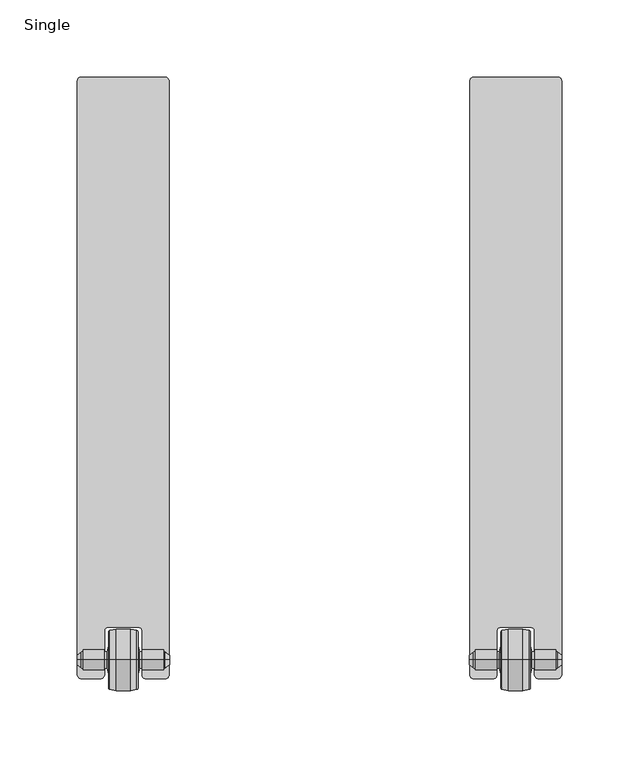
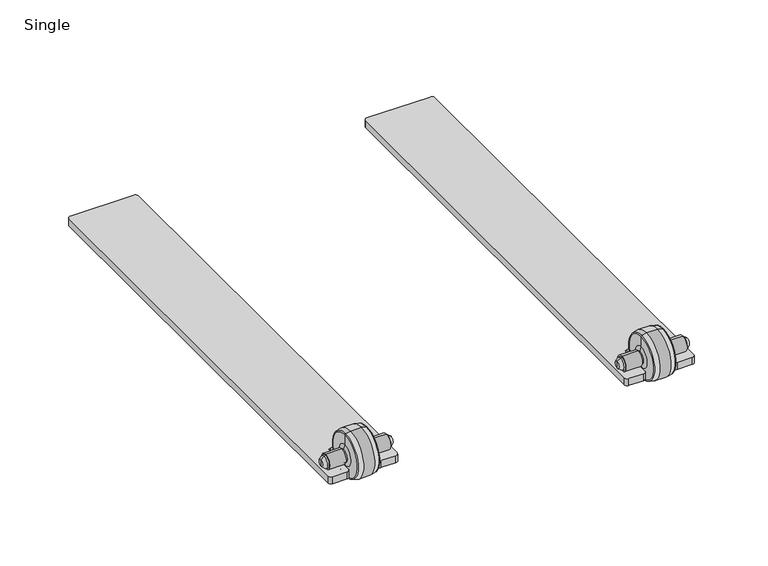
"""IFC4 building model written with IfcOpenShell, lengths in millimetres: furniture geometry, SmithSystem_AM_Seating_Education_Flowform_LearnLounge_MobileKit_Single : Single."""

from ifc_helpers import new_model, si_unit, point, frame, frame_2d, origin, place, context, project, spatial, polyline, circle_curve, ellipse_curve, trimmed, segment, composite_curve, outline, extrude, source, transform, mapped, element, save
from ifc_brep_helpers import plane_surface, cylinder_surface, revolved_surface, advanced_brep


def single_8f184688(model_context):
    return source(origin(), model_context, "Body", "SolidModel", [
        advanced_brep(
        [(-97.2897845, -203.2631744, 19.404882), (-97.2897845, -203.2631744, 22.510052), (-97.2897845, -203.2631744, 25.6152221), (-100.0247812, -203.2631744, 17.3341849), (-100.0247812, -203.2631744, 27.6859191), (-101.2986618, -203.2631744, 17.0165708), (-101.2986618, -203.2631744, 28.0035332), (-101.2986618, -203.2631744, 16.0005885), (-101.2986618, -203.2631744, 29.0195155), (-114.9542691, -203.2631744, 16.0005885), (-114.9542691, -203.2631744, 29.0195155), (-114.9542691, -203.2631744, 17.0204517), (-114.9542691, -203.2631744, 27.9996523), (-116.787195, -203.2631744, 17.0204517), (-116.787195, -203.2631744, 27.9996523), (-117.8042435, -203.2631744, 13.367798), (-117.8042435, -203.2631744, 31.652306), (-117.8042435, -203.2631744, 4.1761693), (-117.8042435, -203.2631744, 40.8439347), (-118.510082, -203.2631744, 3.2868443), (-118.510082, -203.2631744, 41.7332597), (-122.5542927, -203.2631744, 2.3439843), (-122.5542927, -203.2631744, 42.6761197), (-132.0543427, -203.2631744, 2.3439843), (-132.0543427, -203.2631744, 42.6761197), (-136.0985534, -203.2631744, 3.2868443), (-136.0985534, -203.2631744, 41.7332597), (-136.8043919, -203.2631744, 4.1761693), (-136.8043919, -203.2631744, 40.8439347), (-136.8043919, -203.2631744, 13.367798), (-136.8043919, -203.2631744, 31.652306), (-137.8214403, -203.2631744, 17.0204517), (-137.8214403, -203.2631744, 27.9996523), (-139.6543663, -203.2631744, 17.0204517), (-139.6543663, -203.2631744, 27.9996523), (-139.6543663, -203.2631744, 16.0005885), (-139.6543663, -203.2631744, 29.0195155), (-153.3099735, -203.2631744, 16.0005885), (-153.3099735, -203.2631744, 29.0195155), (-153.3099735, -203.2631744, 17.0165708), (-153.3099735, -203.2631744, 28.0035332), (-154.5838541, -203.2631744, 17.3341849), (-154.5838541, -203.2631744, 27.6859191), (-157.3188509, -203.2631744, 19.404882), (-157.3188509, -203.2631744, 25.6152221), (-157.3188509, -203.2631744, 22.510052)],
        [
            (0, 1),
            (1, 2),
            (2, 0, circle_curve(frame((-97.2897845, -203.2631744, 22.510052), z_axis=(1.0, 0.0, 0.0), x_axis=(0.0, 0.0, 1.0)), 3.1051701)),
            (0, 2, circle_curve(frame((-97.2897845, -203.2631744, 22.510052), z_axis=(1.0, 0.0, 0.0), x_axis=(0.0, 0.0, 1.0)), 3.1051701)),
            (3, 0),
            (2, 4),
            (4, 3, circle_curve(frame((-100.0247812, -203.2631744, 22.510052), z_axis=(1.0, 0.0, 0.0), x_axis=(0.0, 0.0, 1.0)), 5.1758671)),
            (3, 4, circle_curve(frame((-100.0247812, -203.2631744, 22.510052), z_axis=(1.0, 0.0, 0.0), x_axis=(0.0, 0.0, 1.0)), 5.1758671)),
            (5, 3),
            (4, 6),
            (6, 5, circle_curve(frame((-101.2986618, -203.2631744, 22.510052), z_axis=(1.0, 0.0, 0.0), x_axis=(0.0, 0.0, 1.0)), 5.4934812)),
            (5, 6, circle_curve(frame((-101.2986618, -203.2631744, 22.510052), z_axis=(1.0, 0.0, 0.0), x_axis=(0.0, 0.0, 1.0)), 5.4934812)),
            (7, 5),
            (6, 8),
            (8, 7, circle_curve(frame((-101.2986618, -203.2631744, 22.510052), z_axis=(1.0, 0.0, 0.0), x_axis=(0.0, 0.0, 1.0)), 6.5094635)),
            (7, 8, circle_curve(frame((-101.2986618, -203.2631744, 22.510052), z_axis=(1.0, 0.0, 0.0), x_axis=(0.0, 0.0, 1.0)), 6.5094635)),
            (9, 7),
            (8, 10),
            (10, 9, circle_curve(frame((-114.9542691, -203.2631744, 22.510052), z_axis=(1.0, 0.0, 0.0), x_axis=(0.0, 0.0, 1.0)), 6.5094635)),
            (9, 10, circle_curve(frame((-114.9542691, -203.2631744, 22.510052), z_axis=(1.0, 0.0, 0.0), x_axis=(0.0, 0.0, 1.0)), 6.5094635)),
            (11, 9),
            (10, 12),
            (12, 11, circle_curve(frame((-114.9542691, -203.2631744, 22.510052), z_axis=(1.0, 0.0, 0.0), x_axis=(0.0, 0.0, 1.0)), 5.4896003)),
            (11, 12, circle_curve(frame((-114.9542691, -203.2631744, 22.510052), z_axis=(1.0, 0.0, 0.0), x_axis=(0.0, 0.0, 1.0)), 5.4896003)),
            (13, 11),
            (12, 14),
            (14, 13, circle_curve(frame((-116.787195, -203.2631744, 22.510052), z_axis=(1.0, 0.0, 0.0), x_axis=(0.0, 0.0, 1.0)), 5.4896003)),
            (13, 14, circle_curve(frame((-116.787195, -203.2631744, 22.510052), z_axis=(1.0, 0.0, 0.0), x_axis=(0.0, 0.0, 1.0)), 5.4896003)),
            (15, 13),
            (14, 16),
            (16, 15, circle_curve(frame((-117.8042435, -203.2631744, 22.510052), z_axis=(1.0, 0.0, 0.0), x_axis=(0.0, 0.0, 1.0)), 9.142254)),
            (15, 16, circle_curve(frame((-117.8042435, -203.2631744, 22.510052), z_axis=(1.0, 0.0, 0.0), x_axis=(0.0, 0.0, 1.0)), 9.142254)),
            (17, 15),
            (16, 18),
            (18, 17, circle_curve(frame((-117.8042435, -203.2631744, 22.510052), z_axis=(1.0, 0.0, 0.0), x_axis=(0.0, 0.0, 1.0)), 18.3338827)),
            (17, 18, circle_curve(frame((-117.8042435, -203.2631744, 22.510052), z_axis=(1.0, 0.0, 0.0), x_axis=(0.0, 0.0, 1.0)), 18.3338827)),
            (19, 17, circle_curve(frame((-118.7174176, -203.2631744, 4.1761693), z_axis=(0.0, -1.0, 0.0), x_axis=(1.0, 0.0, 0.0)), 0.9131741)),
            (18, 20, circle_curve(frame((-118.7174176, -203.2631744, 40.8439347), z_axis=(0.0, -1.0, 0.0), x_axis=(1.0, 0.0, 0.0)), 0.9131741)),
            (20, 19, circle_curve(frame((-118.510082, -203.2631744, 22.510052), z_axis=(1.0, 0.0, 0.0), x_axis=(0.0, 0.0, 1.0)), 19.2232077)),
            (19, 20, circle_curve(frame((-118.510082, -203.2631744, 22.510052), z_axis=(1.0, 0.0, 0.0), x_axis=(0.0, 0.0, 1.0)), 19.2232077)),
            (21, 19),
            (20, 22),
            (22, 21, circle_curve(frame((-122.5542927, -203.2631744, 22.510052), z_axis=(1.0, 0.0, 0.0), x_axis=(0.0, 0.0, 1.0)), 20.1660677)),
            (21, 22, circle_curve(frame((-122.5542927, -203.2631744, 22.510052), z_axis=(1.0, 0.0, 0.0), x_axis=(0.0, 0.0, 1.0)), 20.1660677)),
            (23, 21),
            (22, 24),
            (24, 23, circle_curve(frame((-132.0543427, -203.2631744, 22.510052), z_axis=(1.0, 0.0, 0.0), x_axis=(0.0, 0.0, 1.0)), 20.1660677)),
            (23, 24, circle_curve(frame((-132.0543427, -203.2631744, 22.510052), z_axis=(1.0, 0.0, 0.0), x_axis=(0.0, 0.0, 1.0)), 20.1660677)),
            (25, 23),
            (24, 26),
            (26, 25, circle_curve(frame((-136.0985534, -203.2631744, 22.510052), z_axis=(1.0, 0.0, 0.0), x_axis=(0.0, 0.0, 1.0)), 19.2232077)),
            (25, 26, circle_curve(frame((-136.0985534, -203.2631744, 22.510052), z_axis=(1.0, 0.0, 0.0), x_axis=(0.0, 0.0, 1.0)), 19.2232077)),
            (27, 25, circle_curve(frame((-135.8912178, -203.2631744, 4.1761693), z_axis=(0.0, -1.0, 0.0), x_axis=(1.0, 0.0, 0.0)), 0.9131741)),
            (26, 28, circle_curve(frame((-135.8912178, -203.2631744, 40.8439347), z_axis=(0.0, -1.0, 0.0), x_axis=(1.0, 0.0, 0.0)), 0.9131741)),
            (28, 27, circle_curve(frame((-136.8043919, -203.2631744, 22.510052), z_axis=(1.0, 0.0, 0.0), x_axis=(0.0, 0.0, 1.0)), 18.3338827)),
            (27, 28, circle_curve(frame((-136.8043919, -203.2631744, 22.510052), z_axis=(1.0, 0.0, 0.0), x_axis=(0.0, 0.0, 1.0)), 18.3338827)),
            (29, 27),
            (28, 30),
            (30, 29, circle_curve(frame((-136.8043919, -203.2631744, 22.510052), z_axis=(1.0, 0.0, 0.0), x_axis=(0.0, 0.0, 1.0)), 9.142254)),
            (29, 30, circle_curve(frame((-136.8043919, -203.2631744, 22.510052), z_axis=(1.0, 0.0, 0.0), x_axis=(0.0, 0.0, 1.0)), 9.142254)),
            (31, 29),
            (30, 32),
            (32, 31, circle_curve(frame((-137.8214403, -203.2631744, 22.510052), z_axis=(1.0, 0.0, 0.0), x_axis=(0.0, 0.0, 1.0)), 5.4896003)),
            (31, 32, circle_curve(frame((-137.8214403, -203.2631744, 22.510052), z_axis=(1.0, 0.0, 0.0), x_axis=(0.0, 0.0, 1.0)), 5.4896003)),
            (33, 31),
            (32, 34),
            (34, 33, circle_curve(frame((-139.6543663, -203.2631744, 22.510052), z_axis=(1.0, 0.0, 0.0), x_axis=(0.0, 0.0, 1.0)), 5.4896003)),
            (33, 34, circle_curve(frame((-139.6543663, -203.2631744, 22.510052), z_axis=(1.0, 0.0, 0.0), x_axis=(0.0, 0.0, 1.0)), 5.4896003)),
            (35, 33),
            (34, 36),
            (36, 35, circle_curve(frame((-139.6543663, -203.2631744, 22.510052), z_axis=(1.0, 0.0, 0.0), x_axis=(0.0, 0.0, 1.0)), 6.5094635)),
            (35, 36, circle_curve(frame((-139.6543663, -203.2631744, 22.510052), z_axis=(1.0, 0.0, 0.0), x_axis=(0.0, 0.0, 1.0)), 6.5094635)),
            (37, 35),
            (36, 38),
            (38, 37, circle_curve(frame((-153.3099735, -203.2631744, 22.510052), z_axis=(1.0, 0.0, 0.0), x_axis=(0.0, 0.0, 1.0)), 6.5094635)),
            (37, 38, circle_curve(frame((-153.3099735, -203.2631744, 22.510052), z_axis=(1.0, 0.0, 0.0), x_axis=(0.0, 0.0, 1.0)), 6.5094635)),
            (39, 37),
            (38, 40),
            (40, 39, circle_curve(frame((-153.3099735, -203.2631744, 22.510052), z_axis=(1.0, 0.0, 0.0), x_axis=(0.0, 0.0, 1.0)), 5.4934812)),
            (39, 40, circle_curve(frame((-153.3099735, -203.2631744, 22.510052), z_axis=(1.0, 0.0, 0.0), x_axis=(0.0, 0.0, 1.0)), 5.4934812)),
            (41, 39),
            (40, 42),
            (42, 41, circle_curve(frame((-154.5838541, -203.2631744, 22.510052), z_axis=(1.0, 0.0, 0.0), x_axis=(0.0, 0.0, 1.0)), 5.1758671)),
            (41, 42, circle_curve(frame((-154.5838541, -203.2631744, 22.510052), z_axis=(1.0, 0.0, 0.0), x_axis=(0.0, 0.0, 1.0)), 5.1758671)),
            (43, 41),
            (42, 44),
            (44, 43, circle_curve(frame((-157.3188509, -203.2631744, 22.510052), z_axis=(1.0, 0.0, 0.0), x_axis=(0.0, 0.0, 1.0)), 3.1051701)),
            (43, 44, circle_curve(frame((-157.3188509, -203.2631744, 22.510052), z_axis=(1.0, 0.0, 0.0), x_axis=(0.0, 0.0, 1.0)), 3.1051701)),
            (45, 43),
            (44, 45),
        ],
        [
            plane_surface(frame((-97.2897845, -203.2631744, 22.510052), z_axis=(1.0, 0.0, 0.0), x_axis=(0.0, 0.0, 1.0))),
            revolved_surface(polyline([(-97.2897845, -203.2631744, 25.6152221), (-100.0247812, -203.2631744, 27.6859191)]), (-161.4201897, -203.2631744, 22.510052), (-1.0, 0.0, 0.0)),
            revolved_surface(polyline([(-100.0247812, -203.2631744, 27.6859191), (-101.2986618, -203.2631744, 28.0035332)]), (-161.4201897, -203.2631744, 22.510052), (-1.0, 0.0, 0.0)),
            plane_surface(frame((-101.2986618, -203.2631744, 22.510052), z_axis=(1.0, 0.0, 0.0), x_axis=(0.0, 0.0, 1.0))),
            cylinder_surface(frame((-161.4201897, -203.2631744, 22.510052), z_axis=(-1.0, 0.0, 0.0), x_axis=(0.0, 0.0, 1.0)), 6.5094635),
            plane_surface(frame((-114.9542691, -203.2631744, 22.510052), z_axis=(-1.0, 0.0, 0.0), x_axis=(0.0, 0.0, 1.0))),
            cylinder_surface(frame((-161.4201897, -203.2631744, 22.510052), z_axis=(-1.0, 0.0, 0.0), x_axis=(0.0, 0.0, 1.0)), 5.4896003),
            revolved_surface(polyline([(-116.787195, -203.2631744, 27.9996523), (-117.8042435, -203.2631744, 31.652306)]), (-161.4201897, -203.2631744, 22.510052), (-1.0, 0.0, 0.0)),
            plane_surface(frame((-117.8042435, -203.2631744, 22.510052), z_axis=(1.0, 0.0, 0.0), x_axis=(0.0, 0.0, 1.0))),
            revolved_surface(trimmed(ellipse_curve(frame((-118.7174176, -203.2631744, 40.8439347), z_axis=(0.0, -1.0, 0.0), x_axis=(1.0, 0.0, 0.0)), 0.9131741, 0.9131741), [point((-117.8042435, -203.2631744, 40.8439347))], [point((-118.510082, -203.2631744, 41.7332597))], True, "CARTESIAN"), (-161.4201897, -203.2631744, 22.510052), (-1.0, 0.0, 0.0)),
            revolved_surface(polyline([(-118.510082, -203.2631744, 41.7332597), (-122.5542927, -203.2631744, 42.6761197)]), (-161.4201897, -203.2631744, 22.510052), (-1.0, 0.0, 0.0)),
            cylinder_surface(frame((-161.4201897, -203.2631744, 22.510052), z_axis=(-1.0, 0.0, 0.0), x_axis=(0.0, 0.0, 1.0)), 20.1660677),
            revolved_surface(polyline([(-132.0543427, -203.2631744, 42.6761197), (-136.0985534, -203.2631744, 41.7332597)]), (-161.4201897, -203.2631744, 22.510052), (-1.0, 0.0, 0.0)),
            revolved_surface(trimmed(ellipse_curve(frame((-135.8912178, -203.2631744, 40.8439347), z_axis=(0.0, -1.0, 0.0), x_axis=(1.0, 0.0, 0.0)), 0.9131741, 0.9131741), [point((-136.0985534, -203.2631744, 41.7332597))], [point((-136.8043919, -203.2631744, 40.8439347))], True, "CARTESIAN"), (-161.4201897, -203.2631744, 22.510052), (-1.0, 0.0, 0.0)),
            plane_surface(frame((-136.8043919, -203.2631744, 22.510052), z_axis=(-1.0, 0.0, 0.0), x_axis=(0.0, 0.0, 1.0))),
            revolved_surface(polyline([(-136.8043919, -203.2631744, 31.652306), (-137.8214403, -203.2631744, 27.9996523)]), (-161.4201897, -203.2631744, 22.510052), (-1.0, 0.0, 0.0)),
            plane_surface(frame((-139.6543663, -203.2631744, 22.510052), z_axis=(1.0, 0.0, 0.0), x_axis=(0.0, 0.0, 1.0))),
            plane_surface(frame((-153.3099735, -203.2631744, 22.510052), z_axis=(-1.0, 0.0, 0.0), x_axis=(0.0, 0.0, 1.0))),
            revolved_surface(polyline([(-153.3099735, -203.2631744, 28.0035332), (-154.5838541, -203.2631744, 27.6859191)]), (-161.4201897, -203.2631744, 22.510052), (-1.0, 0.0, 0.0)),
            revolved_surface(polyline([(-154.5838541, -203.2631744, 27.6859191), (-157.3188509, -203.2631744, 25.6152221)]), (-161.4201897, -203.2631744, 22.510052), (-1.0, 0.0, 0.0)),
            plane_surface(frame((-157.3188509, -203.2631744, 22.510052), z_axis=(-1.0, 0.0, 0.0), x_axis=(0.0, 0.0, 1.0))),
        ],
        [
            (0, [[1, 2, 3]]),
            (0, [[-2, -1, 4]]),
            (1, [[5, -3, 6, 7]]),
            (1, [[-6, -4, -5, 8]]),
            (2, [[9, -7, 10, 11]]),
            (2, [[-10, -8, -9, 12]]),
            (3, [[13, -11, 14, 15]]),
            (3, [[-14, -12, -13, 16]]),
            (4, [[17, -15, 18, 19]]),
            (4, [[-18, -16, -17, 20]]),
            (5, [[21, -19, 22, 23]]),
            (5, [[-22, -20, -21, 24]]),
            (6, [[25, -23, 26, 27]]),
            (6, [[-26, -24, -25, 28]]),
            (7, [[29, -27, 30, 31]]),
            (7, [[-30, -28, -29, 32]]),
            (8, [[33, -31, 34, 35]]),
            (8, [[-34, -32, -33, 36]]),
            (9, [[37, -35, 38, 39]]),
            (9, [[-38, -36, -37, 40]]),
            (10, [[41, -39, 42, 43]]),
            (10, [[-42, -40, -41, 44]]),
            (11, [[45, -43, 46, 47]]),
            (11, [[-46, -44, -45, 48]]),
            (12, [[49, -47, 50, 51]]),
            (12, [[-50, -48, -49, 52]]),
            (13, [[53, -51, 54, 55]]),
            (13, [[-54, -52, -53, 56]]),
            (14, [[57, -55, 58, 59]]),
            (14, [[-58, -56, -57, 60]]),
            (15, [[61, -59, 62, 63]]),
            (15, [[-62, -60, -61, 64]]),
            (6, [[65, -63, 66, 67]]),
            (6, [[-66, -64, -65, 68]]),
            (16, [[69, -67, 70, 71]]),
            (16, [[-70, -68, -69, 72]]),
            (4, [[73, -71, 74, 75]]),
            (4, [[-74, -72, -73, 76]]),
            (17, [[77, -75, 78, 79]]),
            (17, [[-78, -76, -77, 80]]),
            (18, [[81, -79, 82, 83]]),
            (18, [[-82, -80, -81, 84]]),
            (19, [[85, -83, 86, 87]]),
            (19, [[-86, -84, -85, 88]]),
            (20, [[89, -87, 90]]),
            (20, [[-90, -88, -89]]),
        ],
    ),
        advanced_brep(
        [(157.3188509, -203.2631744, 19.404882), (157.3188509, -203.2631744, 22.510052), (157.3188509, -203.2631744, 25.6152221), (154.5838541, -203.2631744, 17.3341849), (154.5838541, -203.2631744, 27.6859191), (153.3099735, -203.2631744, 17.0165708), (153.3099735, -203.2631744, 28.0035332), (153.3099735, -203.2631744, 16.0005885), (153.3099735, -203.2631744, 29.0195155), (139.6543663, -203.2631744, 16.0005885), (139.6543663, -203.2631744, 29.0195155), (139.6543663, -203.2631744, 17.0204517), (139.6543663, -203.2631744, 27.9996523), (137.8214403, -203.2631744, 17.0204517), (137.8214403, -203.2631744, 27.9996523), (136.8043919, -203.2631744, 13.367798), (136.8043919, -203.2631744, 31.652306), (136.8043919, -203.2631744, 4.1761693), (136.8043919, -203.2631744, 40.8439347), (136.0985534, -203.2631744, 3.2868443), (136.0985534, -203.2631744, 41.7332597), (132.0543427, -203.2631744, 2.3439843), (132.0543427, -203.2631744, 42.6761197), (122.5542927, -203.2631744, 2.3439843), (122.5542927, -203.2631744, 42.6761197), (118.510082, -203.2631744, 3.2868443), (118.510082, -203.2631744, 41.7332597), (117.8042435, -203.2631744, 4.1761693), (117.8042435, -203.2631744, 40.8439347), (117.8042435, -203.2631744, 13.367798), (117.8042435, -203.2631744, 31.652306), (116.787195, -203.2631744, 17.0204517), (116.787195, -203.2631744, 27.9996523), (114.9542691, -203.2631744, 17.0204517), (114.9542691, -203.2631744, 27.9996523), (114.9542691, -203.2631744, 16.0005885), (114.9542691, -203.2631744, 29.0195155), (101.2986618, -203.2631744, 16.0005885), (101.2986618, -203.2631744, 29.0195155), (101.2986618, -203.2631744, 17.0165708), (101.2986618, -203.2631744, 28.0035332), (100.0247812, -203.2631744, 17.3341849), (100.0247812, -203.2631744, 27.6859191), (97.2897845, -203.2631744, 19.404882), (97.2897845, -203.2631744, 25.6152221), (97.2897845, -203.2631744, 22.510052)],
        [
            (0, 1),
            (1, 2),
            (2, 0, circle_curve(frame((157.3188509, -203.2631744, 22.510052), z_axis=(1.0, 0.0, 0.0), x_axis=(0.0, 0.0, 1.0)), 3.1051701)),
            (0, 2, circle_curve(frame((157.3188509, -203.2631744, 22.510052), z_axis=(1.0, 0.0, 0.0), x_axis=(0.0, 0.0, 1.0)), 3.1051701)),
            (3, 0),
            (2, 4),
            (4, 3, circle_curve(frame((154.5838541, -203.2631744, 22.510052), z_axis=(1.0, 0.0, 0.0), x_axis=(0.0, 0.0, 1.0)), 5.1758671)),
            (3, 4, circle_curve(frame((154.5838541, -203.2631744, 22.510052), z_axis=(1.0, 0.0, 0.0), x_axis=(0.0, 0.0, 1.0)), 5.1758671)),
            (5, 3),
            (4, 6),
            (6, 5, circle_curve(frame((153.3099735, -203.2631744, 22.510052), z_axis=(1.0, 0.0, 0.0), x_axis=(0.0, 0.0, 1.0)), 5.4934812)),
            (5, 6, circle_curve(frame((153.3099735, -203.2631744, 22.510052), z_axis=(1.0, 0.0, 0.0), x_axis=(0.0, 0.0, 1.0)), 5.4934812)),
            (7, 5),
            (6, 8),
            (8, 7, circle_curve(frame((153.3099735, -203.2631744, 22.510052), z_axis=(1.0, 0.0, 0.0), x_axis=(0.0, 0.0, 1.0)), 6.5094635)),
            (7, 8, circle_curve(frame((153.3099735, -203.2631744, 22.510052), z_axis=(1.0, 0.0, 0.0), x_axis=(0.0, 0.0, 1.0)), 6.5094635)),
            (9, 7),
            (8, 10),
            (10, 9, circle_curve(frame((139.6543663, -203.2631744, 22.510052), z_axis=(1.0, 0.0, 0.0), x_axis=(0.0, 0.0, 1.0)), 6.5094635)),
            (9, 10, circle_curve(frame((139.6543663, -203.2631744, 22.510052), z_axis=(1.0, 0.0, 0.0), x_axis=(0.0, 0.0, 1.0)), 6.5094635)),
            (11, 9),
            (10, 12),
            (12, 11, circle_curve(frame((139.6543663, -203.2631744, 22.510052), z_axis=(1.0, 0.0, 0.0), x_axis=(0.0, 0.0, 1.0)), 5.4896003)),
            (11, 12, circle_curve(frame((139.6543663, -203.2631744, 22.510052), z_axis=(1.0, 0.0, 0.0), x_axis=(0.0, 0.0, 1.0)), 5.4896003)),
            (13, 11),
            (12, 14),
            (14, 13, circle_curve(frame((137.8214403, -203.2631744, 22.510052), z_axis=(1.0, 0.0, 0.0), x_axis=(0.0, 0.0, 1.0)), 5.4896003)),
            (13, 14, circle_curve(frame((137.8214403, -203.2631744, 22.510052), z_axis=(1.0, 0.0, 0.0), x_axis=(0.0, 0.0, 1.0)), 5.4896003)),
            (15, 13),
            (14, 16),
            (16, 15, circle_curve(frame((136.8043919, -203.2631744, 22.510052), z_axis=(1.0, 0.0, 0.0), x_axis=(0.0, 0.0, 1.0)), 9.142254)),
            (15, 16, circle_curve(frame((136.8043919, -203.2631744, 22.510052), z_axis=(1.0, 0.0, 0.0), x_axis=(0.0, 0.0, 1.0)), 9.142254)),
            (17, 15),
            (16, 18),
            (18, 17, circle_curve(frame((136.8043919, -203.2631744, 22.510052), z_axis=(1.0, 0.0, 0.0), x_axis=(0.0, 0.0, 1.0)), 18.3338827)),
            (17, 18, circle_curve(frame((136.8043919, -203.2631744, 22.510052), z_axis=(1.0, 0.0, 0.0), x_axis=(0.0, 0.0, 1.0)), 18.3338827)),
            (19, 17, circle_curve(frame((135.8912178, -203.2631744, 4.1761693), z_axis=(0.0, -1.0, 0.0), x_axis=(1.0, 0.0, 0.0)), 0.9131741)),
            (18, 20, circle_curve(frame((135.8912178, -203.2631744, 40.8439347), z_axis=(0.0, -1.0, 0.0), x_axis=(1.0, 0.0, 0.0)), 0.9131741)),
            (20, 19, circle_curve(frame((136.0985534, -203.2631744, 22.510052), z_axis=(1.0, 0.0, 0.0), x_axis=(0.0, 0.0, 1.0)), 19.2232077)),
            (19, 20, circle_curve(frame((136.0985534, -203.2631744, 22.510052), z_axis=(1.0, 0.0, 0.0), x_axis=(0.0, 0.0, 1.0)), 19.2232077)),
            (21, 19),
            (20, 22),
            (22, 21, circle_curve(frame((132.0543427, -203.2631744, 22.510052), z_axis=(1.0, 0.0, 0.0), x_axis=(0.0, 0.0, 1.0)), 20.1660677)),
            (21, 22, circle_curve(frame((132.0543427, -203.2631744, 22.510052), z_axis=(1.0, 0.0, 0.0), x_axis=(0.0, 0.0, 1.0)), 20.1660677)),
            (23, 21),
            (22, 24),
            (24, 23, circle_curve(frame((122.5542927, -203.2631744, 22.510052), z_axis=(1.0, 0.0, 0.0), x_axis=(0.0, 0.0, 1.0)), 20.1660677)),
            (23, 24, circle_curve(frame((122.5542927, -203.2631744, 22.510052), z_axis=(1.0, 0.0, 0.0), x_axis=(0.0, 0.0, 1.0)), 20.1660677)),
            (25, 23),
            (24, 26),
            (26, 25, circle_curve(frame((118.510082, -203.2631744, 22.510052), z_axis=(1.0, 0.0, 0.0), x_axis=(0.0, 0.0, 1.0)), 19.2232077)),
            (25, 26, circle_curve(frame((118.510082, -203.2631744, 22.510052), z_axis=(1.0, 0.0, 0.0), x_axis=(0.0, 0.0, 1.0)), 19.2232077)),
            (27, 25, circle_curve(frame((118.7174176, -203.2631744, 4.1761693), z_axis=(0.0, -1.0, 0.0), x_axis=(1.0, 0.0, 0.0)), 0.9131741)),
            (26, 28, circle_curve(frame((118.7174176, -203.2631744, 40.8439347), z_axis=(0.0, -1.0, 0.0), x_axis=(1.0, 0.0, 0.0)), 0.9131741)),
            (28, 27, circle_curve(frame((117.8042435, -203.2631744, 22.510052), z_axis=(1.0, 0.0, 0.0), x_axis=(0.0, 0.0, 1.0)), 18.3338827)),
            (27, 28, circle_curve(frame((117.8042435, -203.2631744, 22.510052), z_axis=(1.0, 0.0, 0.0), x_axis=(0.0, 0.0, 1.0)), 18.3338827)),
            (29, 27),
            (28, 30),
            (30, 29, circle_curve(frame((117.8042435, -203.2631744, 22.510052), z_axis=(1.0, 0.0, 0.0), x_axis=(0.0, 0.0, 1.0)), 9.142254)),
            (29, 30, circle_curve(frame((117.8042435, -203.2631744, 22.510052), z_axis=(1.0, 0.0, 0.0), x_axis=(0.0, 0.0, 1.0)), 9.142254)),
            (31, 29),
            (30, 32),
            (32, 31, circle_curve(frame((116.787195, -203.2631744, 22.510052), z_axis=(1.0, 0.0, 0.0), x_axis=(0.0, 0.0, 1.0)), 5.4896003)),
            (31, 32, circle_curve(frame((116.787195, -203.2631744, 22.510052), z_axis=(1.0, 0.0, 0.0), x_axis=(0.0, 0.0, 1.0)), 5.4896003)),
            (33, 31),
            (32, 34),
            (34, 33, circle_curve(frame((114.9542691, -203.2631744, 22.510052), z_axis=(1.0, 0.0, 0.0), x_axis=(0.0, 0.0, 1.0)), 5.4896003)),
            (33, 34, circle_curve(frame((114.9542691, -203.2631744, 22.510052), z_axis=(1.0, 0.0, 0.0), x_axis=(0.0, 0.0, 1.0)), 5.4896003)),
            (35, 33),
            (34, 36),
            (36, 35, circle_curve(frame((114.9542691, -203.2631744, 22.510052), z_axis=(1.0, 0.0, 0.0), x_axis=(0.0, 0.0, 1.0)), 6.5094635)),
            (35, 36, circle_curve(frame((114.9542691, -203.2631744, 22.510052), z_axis=(1.0, 0.0, 0.0), x_axis=(0.0, 0.0, 1.0)), 6.5094635)),
            (37, 35),
            (36, 38),
            (38, 37, circle_curve(frame((101.2986618, -203.2631744, 22.510052), z_axis=(1.0, 0.0, 0.0), x_axis=(0.0, 0.0, 1.0)), 6.5094635)),
            (37, 38, circle_curve(frame((101.2986618, -203.2631744, 22.510052), z_axis=(1.0, 0.0, 0.0), x_axis=(0.0, 0.0, 1.0)), 6.5094635)),
            (39, 37),
            (38, 40),
            (40, 39, circle_curve(frame((101.2986618, -203.2631744, 22.510052), z_axis=(1.0, 0.0, 0.0), x_axis=(0.0, 0.0, 1.0)), 5.4934812)),
            (39, 40, circle_curve(frame((101.2986618, -203.2631744, 22.510052), z_axis=(1.0, 0.0, 0.0), x_axis=(0.0, 0.0, 1.0)), 5.4934812)),
            (41, 39),
            (40, 42),
            (42, 41, circle_curve(frame((100.0247812, -203.2631744, 22.510052), z_axis=(1.0, 0.0, 0.0), x_axis=(0.0, 0.0, 1.0)), 5.1758671)),
            (41, 42, circle_curve(frame((100.0247812, -203.2631744, 22.510052), z_axis=(1.0, 0.0, 0.0), x_axis=(0.0, 0.0, 1.0)), 5.1758671)),
            (43, 41),
            (42, 44),
            (44, 43, circle_curve(frame((97.2897845, -203.2631744, 22.510052), z_axis=(1.0, 0.0, 0.0), x_axis=(0.0, 0.0, 1.0)), 3.1051701)),
            (43, 44, circle_curve(frame((97.2897845, -203.2631744, 22.510052), z_axis=(1.0, 0.0, 0.0), x_axis=(0.0, 0.0, 1.0)), 3.1051701)),
            (45, 43),
            (44, 45),
        ],
        [
            plane_surface(frame((157.3188509, -203.2631744, 22.510052), z_axis=(1.0, 0.0, 0.0), x_axis=(0.0, 0.0, 1.0))),
            revolved_surface(polyline([(157.3188509, -203.2631744, 25.6152221), (154.5838541, -203.2631744, 27.6859191)]), (-161.4201897, -203.2631744, 22.510052), (-1.0, 0.0, 0.0)),
            revolved_surface(polyline([(154.5838541, -203.2631744, 27.6859191), (153.3099735, -203.2631744, 28.0035332)]), (-161.4201897, -203.2631744, 22.510052), (-1.0, 0.0, 0.0)),
            plane_surface(frame((153.3099735, -203.2631744, 22.510052), z_axis=(1.0, 0.0, 0.0), x_axis=(0.0, 0.0, 1.0))),
            cylinder_surface(frame((-161.4201897, -203.2631744, 22.510052), z_axis=(-1.0, 0.0, 0.0), x_axis=(0.0, 0.0, 1.0)), 6.5094635),
            plane_surface(frame((139.6543663, -203.2631744, 22.510052), z_axis=(-1.0, 0.0, 0.0), x_axis=(0.0, 0.0, 1.0))),
            cylinder_surface(frame((-161.4201897, -203.2631744, 22.510052), z_axis=(-1.0, 0.0, 0.0), x_axis=(0.0, 0.0, 1.0)), 5.4896003),
            revolved_surface(polyline([(137.8214403, -203.2631744, 27.9996523), (136.8043919, -203.2631744, 31.652306)]), (-161.4201897, -203.2631744, 22.510052), (-1.0, 0.0, 0.0)),
            plane_surface(frame((136.8043919, -203.2631744, 22.510052), z_axis=(1.0, 0.0, 0.0), x_axis=(0.0, 0.0, 1.0))),
            revolved_surface(trimmed(ellipse_curve(frame((135.8912178, -203.2631744, 40.8439347), z_axis=(0.0, -1.0, 0.0), x_axis=(1.0, 0.0, 0.0)), 0.9131741, 0.9131741), [point((136.8043919, -203.2631744, 40.8439347))], [point((136.0985534, -203.2631744, 41.7332597))], True, "CARTESIAN"), (-161.4201897, -203.2631744, 22.510052), (-1.0, 0.0, 0.0)),
            revolved_surface(polyline([(136.0985534, -203.2631744, 41.7332597), (132.0543427, -203.2631744, 42.6761197)]), (-161.4201897, -203.2631744, 22.510052), (-1.0, 0.0, 0.0)),
            cylinder_surface(frame((-161.4201897, -203.2631744, 22.510052), z_axis=(-1.0, 0.0, 0.0), x_axis=(0.0, 0.0, 1.0)), 20.1660677),
            revolved_surface(polyline([(122.5542927, -203.2631744, 42.6761197), (118.510082, -203.2631744, 41.7332597)]), (-161.4201897, -203.2631744, 22.510052), (-1.0, 0.0, 0.0)),
            revolved_surface(trimmed(ellipse_curve(frame((118.7174176, -203.2631744, 40.8439347), z_axis=(0.0, -1.0, 0.0), x_axis=(1.0, 0.0, 0.0)), 0.9131741, 0.9131741), [point((118.510082, -203.2631744, 41.7332597))], [point((117.8042435, -203.2631744, 40.8439347))], True, "CARTESIAN"), (-161.4201897, -203.2631744, 22.510052), (-1.0, 0.0, 0.0)),
            plane_surface(frame((117.8042435, -203.2631744, 22.510052), z_axis=(-1.0, 0.0, 0.0), x_axis=(0.0, 0.0, 1.0))),
            revolved_surface(polyline([(117.8042435, -203.2631744, 31.652306), (116.787195, -203.2631744, 27.9996523)]), (-161.4201897, -203.2631744, 22.510052), (-1.0, 0.0, 0.0)),
            plane_surface(frame((114.9542691, -203.2631744, 22.510052), z_axis=(1.0, 0.0, 0.0), x_axis=(0.0, 0.0, 1.0))),
            plane_surface(frame((101.2986618, -203.2631744, 22.510052), z_axis=(-1.0, 0.0, 0.0), x_axis=(0.0, 0.0, 1.0))),
            revolved_surface(polyline([(101.2986618, -203.2631744, 28.0035332), (100.0247812, -203.2631744, 27.6859191)]), (-161.4201897, -203.2631744, 22.510052), (-1.0, 0.0, 0.0)),
            revolved_surface(polyline([(100.0247812, -203.2631744, 27.6859191), (97.2897845, -203.2631744, 25.6152221)]), (-161.4201897, -203.2631744, 22.510052), (-1.0, 0.0, 0.0)),
            plane_surface(frame((97.2897845, -203.2631744, 22.510052), z_axis=(-1.0, 0.0, 0.0), x_axis=(0.0, 0.0, 1.0))),
        ],
        [
            (0, [[1, 2, 3]]),
            (0, [[-2, -1, 4]]),
            (1, [[5, -3, 6, 7]]),
            (1, [[-6, -4, -5, 8]]),
            (2, [[9, -7, 10, 11]]),
            (2, [[-10, -8, -9, 12]]),
            (3, [[13, -11, 14, 15]]),
            (3, [[-14, -12, -13, 16]]),
            (4, [[17, -15, 18, 19]]),
            (4, [[-18, -16, -17, 20]]),
            (5, [[21, -19, 22, 23]]),
            (5, [[-22, -20, -21, 24]]),
            (6, [[25, -23, 26, 27]]),
            (6, [[-26, -24, -25, 28]]),
            (7, [[29, -27, 30, 31]]),
            (7, [[-30, -28, -29, 32]]),
            (8, [[33, -31, 34, 35]]),
            (8, [[-34, -32, -33, 36]]),
            (9, [[37, -35, 38, 39]]),
            (9, [[-38, -36, -37, 40]]),
            (10, [[41, -39, 42, 43]]),
            (10, [[-42, -40, -41, 44]]),
            (11, [[45, -43, 46, 47]]),
            (11, [[-46, -44, -45, 48]]),
            (12, [[49, -47, 50, 51]]),
            (12, [[-50, -48, -49, 52]]),
            (13, [[53, -51, 54, 55]]),
            (13, [[-54, -52, -53, 56]]),
            (14, [[57, -55, 58, 59]]),
            (14, [[-58, -56, -57, 60]]),
            (15, [[61, -59, 62, 63]]),
            (15, [[-62, -60, -61, 64]]),
            (6, [[65, -63, 66, 67]]),
            (6, [[-66, -64, -65, 68]]),
            (16, [[69, -67, 70, 71]]),
            (16, [[-70, -68, -69, 72]]),
            (4, [[73, -71, 74, 75]]),
            (4, [[-74, -72, -73, 76]]),
            (17, [[77, -75, 78, 79]]),
            (17, [[-78, -76, -77, 80]]),
            (18, [[81, -79, 82, 83]]),
            (18, [[-82, -80, -81, 84]]),
            (19, [[85, -83, 86, 87]]),
            (19, [[-86, -84, -85, 88]]),
            (20, [[89, -87, 90]]),
            (20, [[-90, -88, -89]]),
        ],
    ),
        extrude(outline(composite_curve([segment(polyline([(-157.1643349, -212.8068621), (-157.1643349, 172.4341713)]), True, "CONTINUOUS"), segment(trimmed(circle_curve(frame_2d((-154.6436864, 172.121232)), 2.54), [point((-157.1643349, 172.4341713))], [point((-154.6436864, 174.661232))], False, "CARTESIAN"), True, "CONTINUOUS"), segment(polyline([(-154.6436864, 174.661232), (-100.195336, 174.661232)]), True, "CONTINUOUS"), segment(trimmed(circle_curve(frame_2d((-100.195336, 172.113524)), 2.547708), [point((-100.195336, 174.661232))], [point((-97.647628, 172.113524))], False, "CARTESIAN"), True, "CONTINUOUS"), segment(polyline([(-97.647628, 172.113524), (-97.647628, -212.9190368)]), True, "CONTINUOUS"), segment(trimmed(circle_curve(frame_2d((-100.1516884, -212.9190368)), 2.5040604), [point((-97.647628, -212.9190368))], [point((-100.1516884, -215.4230972))], False, "CARTESIAN"), True, "CONTINUOUS"), segment(polyline([(-100.1516884, -215.4230972), (-112.6927603, -215.4230972)]), True, "CONTINUOUS"), segment(trimmed(circle_curve(frame_2d((-112.6927603, -212.9939145)), 2.4291827), [point((-112.6927603, -215.4230972))], [point((-115.1219429, -212.9939145))], False, "CARTESIAN"), True, "CONTINUOUS"), segment(polyline([(-115.1219429, -212.9939145), (-115.1219429, -184.7023485)]), True, "CONTINUOUS"), segment(trimmed(circle_curve(frame_2d((-117.7376405, -184.7023485)), 2.6156976), [point((-115.1219429, -184.7023485))], [point((-117.7376405, -182.0866509))], True, "CARTESIAN"), True, "CONTINUOUS"), segment(polyline([(-117.7376405, -182.0866509), (-137.005893, -182.0866509)]), True, "CONTINUOUS"), segment(trimmed(circle_curve(frame_2d((-137.005893, -184.5583908)), 2.4717399), [point((-137.005893, -182.0866509))], [point((-139.4776329, -184.5583908))], True, "CARTESIAN"), True, "CONTINUOUS"), segment(polyline([(-139.4776329, -184.5583908), (-139.4776329, -212.7832528)]), True, "CONTINUOUS"), segment(trimmed(circle_curve(frame_2d((-142.1174772, -212.7832528)), 2.6398444), [point((-139.4776329, -212.7832528))], [point((-142.1174772, -215.4230972))], False, "CARTESIAN"), True, "CONTINUOUS"), segment(polyline([(-142.1174772, -215.4230972), (-154.5480998, -215.4230972)]), True, "CONTINUOUS"), segment(trimmed(circle_curve(frame_2d((-154.5480998, -212.8068621)), 2.6162351), [point((-154.5480998, -215.4230972))], [point((-157.1643349, -212.8068621))], False, "CARTESIAN"), True, "CONTINUOUS")], self_intersect=False)), frame((0.0, 0.0, 10.1600641), z_axis=(0.0, 0.0, 1.0), x_axis=(1.0, 0.0, 0.0)), (0.0, 0.0, 1.0), 6.3754001),
        extrude(outline(composite_curve([segment(trimmed(circle_curve(frame_2d((154.5480998, -212.8068621)), 2.6162351), [point((157.1643349, -212.8068621))], [point((154.5480998, -215.4230972))], False, "CARTESIAN"), True, "CONTINUOUS"), segment(polyline([(154.5480998, -215.4230972), (142.1174772, -215.4230972)]), True, "CONTINUOUS"), segment(trimmed(circle_curve(frame_2d((142.1174772, -212.7832528)), 2.6398444), [point((142.1174772, -215.4230972))], [point((139.4776329, -212.7832528))], False, "CARTESIAN"), True, "CONTINUOUS"), segment(polyline([(139.4776329, -212.7832528), (139.4776329, -184.5583908)]), True, "CONTINUOUS"), segment(trimmed(circle_curve(frame_2d((137.005893, -184.5583908)), 2.4717399), [point((139.4776329, -184.5583908))], [point((137.005893, -182.0866509))], True, "CARTESIAN"), True, "CONTINUOUS"), segment(polyline([(137.005893, -182.0866509), (117.7376405, -182.0866509)]), True, "CONTINUOUS"), segment(trimmed(circle_curve(frame_2d((117.7376405, -184.7023485)), 2.6156976), [point((117.7376405, -182.0866509))], [point((115.1219429, -184.7023485))], True, "CARTESIAN"), True, "CONTINUOUS"), segment(polyline([(115.1219429, -184.7023485), (115.1219429, -212.9939145)]), True, "CONTINUOUS"), segment(trimmed(circle_curve(frame_2d((112.6927603, -212.9939145)), 2.4291827), [point((115.1219429, -212.9939145))], [point((112.6927603, -215.4230972))], False, "CARTESIAN"), True, "CONTINUOUS"), segment(polyline([(112.6927603, -215.4230972), (100.1516884, -215.4230972)]), True, "CONTINUOUS"), segment(trimmed(circle_curve(frame_2d((100.1516884, -212.9190368)), 2.5040604), [point((100.1516884, -215.4230972))], [point((97.647628, -212.9190368))], False, "CARTESIAN"), True, "CONTINUOUS"), segment(polyline([(97.647628, -212.9190368), (97.647628, 172.113524)]), True, "CONTINUOUS"), segment(trimmed(circle_curve(frame_2d((100.195336, 172.113524)), 2.547708), [point((97.647628, 172.113524))], [point((100.195336, 174.661232))], False, "CARTESIAN"), True, "CONTINUOUS"), segment(polyline([(100.195336, 174.661232), (154.6436864, 174.661232)]), True, "CONTINUOUS"), segment(trimmed(circle_curve(frame_2d((154.6436864, 172.121232)), 2.54), [point((154.6436864, 174.661232))], [point((157.1643349, 172.4341713))], False, "CARTESIAN"), True, "CONTINUOUS"), segment(polyline([(157.1643349, 172.4341713), (157.1643349, -212.8068621)]), True, "CONTINUOUS")], self_intersect=False)), frame((0.0, 0.0, 10.1600641), z_axis=(0.0, 0.0, 1.0), x_axis=(1.0, 0.0, 0.0)), (0.0, 0.0, 1.0), 6.3754001),
    ])


if __name__ == "__main__":
    model = new_model("IFC4")
    model_context = context("Model", 3, world=origin())
    ifc_project = project(units=[si_unit("LENGTHUNIT", "METRE", prefix="MILLI")], contexts=[model_context])
    site = spatial("IfcSite", under=ifc_project)
    building = spatial("IfcBuilding", under=site)
    placement = place(None, origin())
    single_shape = single_8f184688(model_context)
    element("IfcFurniture", 1, ObjectType="SmithSystem_AM_Seating_Education_Flowform_LearnLounge_MobileKit_Single : Single", at=placement, inside=building, context=model_context, shape_type="MappedRepresentation", body=[
        mapped(single_shape, transform((0.0, 0.0, 0.0), x_axis=(1.0, 0.0, 0.0), y_axis=(0.0, 1.0, 0.0), z_axis=(0.0, 0.0, 1.0))),
    ])
    save(model, "model.ifc")
